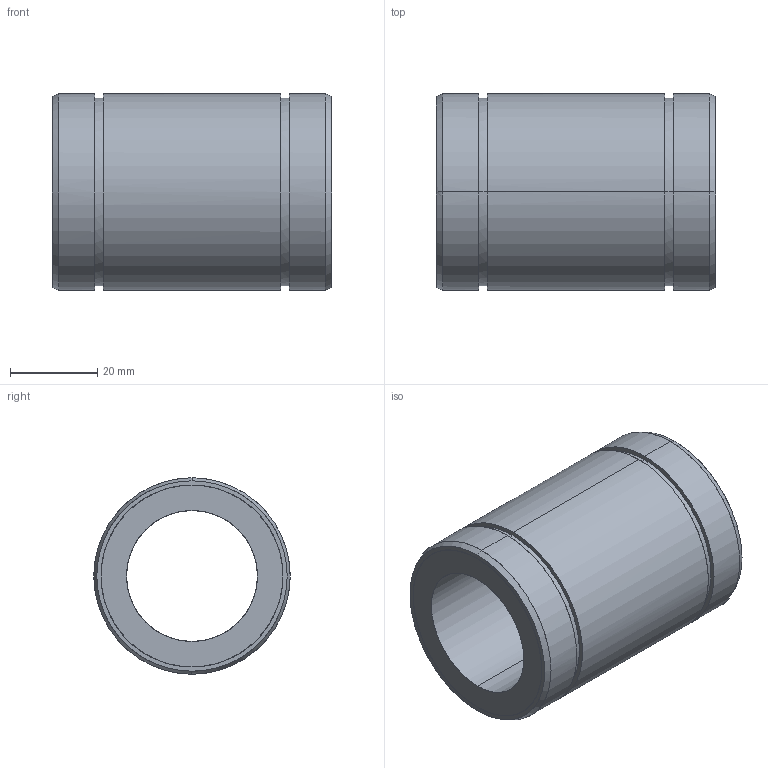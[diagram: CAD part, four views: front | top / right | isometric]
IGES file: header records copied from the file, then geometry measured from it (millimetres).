
Global section: file name: No Iges File Name specified; native system: AutoDesk Inventor R10; preprocessor: AutoDesk Inventor Iges Exporter R10; author: No Author specified; organization: No Organization specified; date: 20101208.095049; units: millimetre
Bounding box: 64 x 45 x 45 mm (x, y, z)
Surface area: 17236.5 mm2 (no closed solid volume)
Topology: 0 solids, 0 shells, 28 faces, 184 edges, 184 vertices
Faces by surface type: bspline 28
